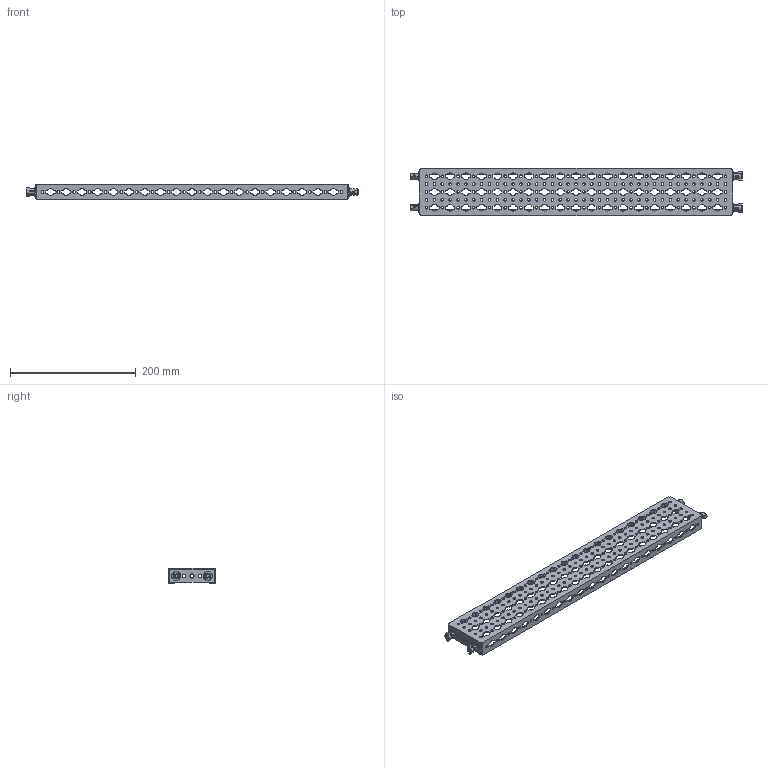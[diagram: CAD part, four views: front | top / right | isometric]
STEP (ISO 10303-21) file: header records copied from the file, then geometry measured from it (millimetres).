
FILE_DESCRIPTION(('Open CASCADE Model'),'2;1');
FILE_NAME('Open CASCADE Shape Model','2025-02-21T17:49:09',('Author'),( 'Open CASCADE'),'Open CASCADE STEP processor 7.8','Open CASCADE 7.8' ,'Unknown');
FILE_SCHEMA(('AUTOMOTIVE_DESIGN { 1 0 10303 214 1 1 1 1 }'));
Length unit declared in the file: millimetre
Products named in the file (4): Compound1; Solid1; Solid2; Solid3
Assembly tree (9 placements, depth 2):
  Compound1
    Solid1
    Solid2  x4
    Solid3  x4
Bounding box: 527.6 x 75 x 25 mm (x, y, z)
Volume: 92057.9 mm3; surface area: 135645.1 mm2
Topology: 13 solids, 13 shells, 2502 faces, 7289 edges, 4805 vertices
Faces by surface type: cylinder 1294, plane 932, bspline 176, torus 56, cone 40, sphere 4
Full cylindrical faces by diameter (mm): 4.2 x178, 5.5 x4, 6 x4, 6.5 x10, 8.3 x4, 12 x4
Entity records: 71676 total; most frequent: CARTESIAN_POINT 16272, DIRECTION 11778, ORIENTED_EDGE 11684, EDGE_CURVE 5842, AXIS2_PLACEMENT_3D 4409, VERTEX_POINT 3908, LINE 2960, VECTOR 2960
